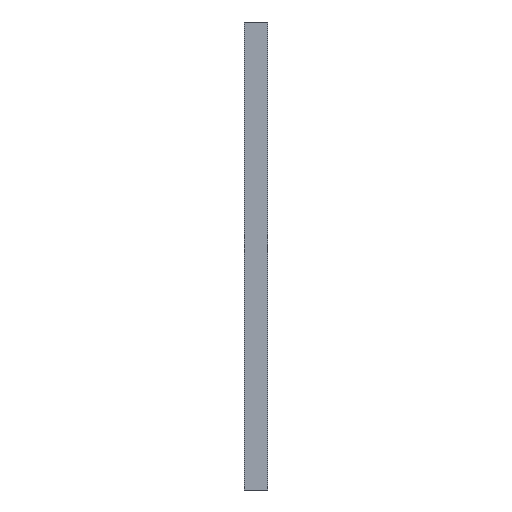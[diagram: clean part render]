
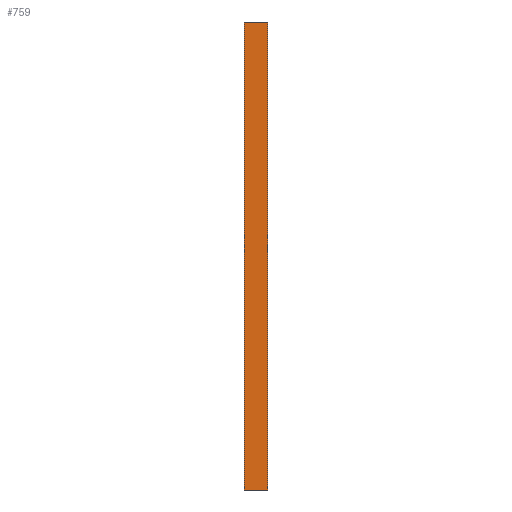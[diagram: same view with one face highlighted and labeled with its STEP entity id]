
A CAD part, left-side view. The second image highlights one B-rep face of the part: STEP entity #759.
In plain terms, the highlighted planar face has unit normal (-1, 0, 0).
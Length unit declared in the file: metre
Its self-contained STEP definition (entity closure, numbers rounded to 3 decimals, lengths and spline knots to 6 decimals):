
#167=ORIENTED_EDGE('',*,*,#319,.T.);
#168=ORIENTED_EDGE('',*,*,#353,.F.);
#169=ORIENTED_EDGE('',*,*,#290,.F.);
#170=ORIENTED_EDGE('',*,*,#354,.T.);
#290=EDGE_CURVE('',#384,#385,#450,.T.);
#319=EDGE_CURVE('',#413,#414,#463,.T.);
#353=EDGE_CURVE('',#385,#414,#473,.T.);
#354=EDGE_CURVE('',#384,#413,#474,.T.);
#384=VERTEX_POINT('',#1158);
#385=VERTEX_POINT('',#1159);
#413=VERTEX_POINT('',#1217);
#414=VERTEX_POINT('',#1218);
#450=LINE('',#1157,#494);
#463=LINE('',#1216,#507);
#473=LINE('',#1284,#517);
#474=LINE('',#1285,#518);
#494=VECTOR('',#928,1.);
#507=VECTOR('',#975,1.);
#517=VECTOR('',#1037,1.);
#518=VECTOR('',#1038,1.);
#580=EDGE_LOOP('',(#167,#168,#169,#170));
#684=FACE_BOUND('',#580,.T.);
#743=PLANE('',#862);
#759=ADVANCED_FACE('',(#684),#743,.F.);
#862=AXIS2_PLACEMENT_3D('',#1283,#1035,#1036);
#928=DIRECTION('',(0.,0.,1.));
#975=DIRECTION('',(0.,0.,1.));
#1035=DIRECTION('',(1.,0.,0.));
#1036=DIRECTION('',(0.,0.,-1.));
#1037=DIRECTION('',(0.,-1.,0.));
#1038=DIRECTION('',(0.,-1.,0.));
#1157=CARTESIAN_POINT('',(-0.161009,0.004,-0.064));
#1158=CARTESIAN_POINT('',(-0.161009,0.004,-0.064));
#1159=CARTESIAN_POINT('',(-0.161009,0.004,0.016));
#1216=CARTESIAN_POINT('',(-0.161009,0.,-0.064));
#1217=CARTESIAN_POINT('',(-0.161009,0.,-0.064));
#1218=CARTESIAN_POINT('',(-0.161009,0.,0.016));
#1283=CARTESIAN_POINT('',(-0.161009,0.004,-0.064));
#1284=CARTESIAN_POINT('',(-0.161009,0.004,0.016));
#1285=CARTESIAN_POINT('',(-0.161009,0.004,-0.064));
